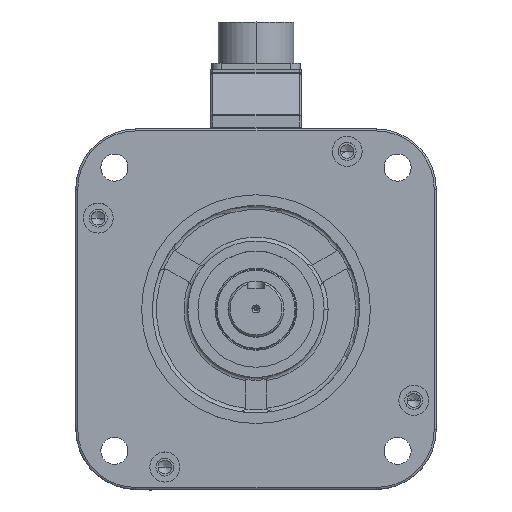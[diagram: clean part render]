
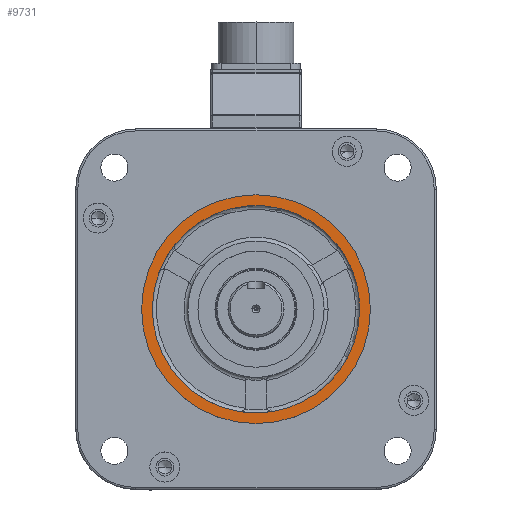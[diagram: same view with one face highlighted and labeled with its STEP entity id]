
A CAD part, top view. The second image highlights one B-rep face of the part: STEP entity #9731.
In plain terms, the highlighted planar face has unit normal (0, 0, 1).
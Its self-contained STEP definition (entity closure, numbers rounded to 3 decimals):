
#322 = DIRECTION ( 'NONE',  ( 1., 0., 0. ) ) ;
#1694 = CARTESIAN_POINT ( 'NONE',  ( 0., 0., 21. ) ) ;
#2957 = AXIS2_PLACEMENT_3D ( 'NONE', #1694, #42381, #14878 ) ;
#3053 = DIRECTION ( 'NONE',  ( 0., 0., 1. ) ) ;
#3659 = DIRECTION ( 'NONE',  ( 1., 0., 0. ) ) ;
#3873 = AXIS2_PLACEMENT_3D ( 'NONE', #58683, #14068, #22168 ) ;
#8122 = CIRCLE ( 'NONE', #9102, 51.75 ) ;
#8298 = CARTESIAN_POINT ( 'NONE',  ( 0., 0., 21. ) ) ;
#8547 = CARTESIAN_POINT ( 'NONE',  ( 8.492, -51.048, 21. ) ) ;
#8676 = CIRCLE ( 'NONE', #2957, 57.15 ) ;
#8756 = ORIENTED_EDGE ( 'NONE', *, *, #57195, .F. ) ;
#9102 = AXIS2_PLACEMENT_3D ( 'NONE', #32371, #50604, #9617 ) ;
#9617 = DIRECTION ( 'NONE',  ( 1., 0., 0. ) ) ;
#9731 = ADVANCED_FACE ( 'NONE', ( #31353, #58894 ), #54679, .T. ) ;
#10361 = CARTESIAN_POINT ( 'NONE',  ( 39.963, 32.879, 21. ) ) ;
#11696 = DIRECTION ( 'NONE',  ( 1., 0., 0. ) ) ;
#11727 = VERTEX_POINT ( 'NONE', #8547 ) ;
#13847 = CIRCLE ( 'NONE', #38645, 51.75 ) ;
#14068 = DIRECTION ( 'NONE',  ( 0., 0., 1. ) ) ;
#14878 = DIRECTION ( 'NONE',  ( 1., 0., 0. ) ) ;
#15259 = CARTESIAN_POINT ( 'NONE',  ( -8.492, -51.048, 21. ) ) ;
#15832 = CIRCLE ( 'NONE', #23469, 57.15 ) ;
#18371 = DIRECTION ( 'NONE',  ( 1., 0., 0. ) ) ;
#21331 = CARTESIAN_POINT ( 'NONE',  ( -48.455, 18.17, 21. ) ) ;
#21459 = CARTESIAN_POINT ( 'NONE',  ( -39.963, 32.879, 21. ) ) ;
#21651 = AXIS2_PLACEMENT_3D ( 'NONE', #21972, #40211, #18371 ) ;
#21972 = CARTESIAN_POINT ( 'NONE',  ( 0., 0., 21. ) ) ;
#22168 = DIRECTION ( 'NONE',  ( 1., 0., 0. ) ) ;
#22476 = ORIENTED_EDGE ( 'NONE', *, *, #26202, .F. ) ;
#23469 = AXIS2_PLACEMENT_3D ( 'NONE', #48830, #3053, #38952 ) ;
#26202 = EDGE_CURVE ( 'NONE', #28057, #36212, #27162, .T. ) ;
#26311 = VERTEX_POINT ( 'NONE', #15259 ) ;
#27162 = CIRCLE ( 'NONE', #35742, 51.75 ) ;
#28057 = VERTEX_POINT ( 'NONE', #21459 ) ;
#28435 = AXIS2_PLACEMENT_3D ( 'NONE', #31188, #58728, #3659 ) ;
#28881 = CARTESIAN_POINT ( 'NONE',  ( 57.15, 0., 21. ) ) ;
#29251 = VERTEX_POINT ( 'NONE', #37417 ) ;
#31112 = VERTEX_POINT ( 'NONE', #45063 ) ;
#31188 = CARTESIAN_POINT ( 'NONE',  ( 0., 0., 21. ) ) ;
#31353 = FACE_BOUND ( 'NONE', #45976, .T. ) ;
#32371 = CARTESIAN_POINT ( 'NONE',  ( 0., 0., 21. ) ) ;
#34089 = ORIENTED_EDGE ( 'NONE', *, *, #49455, .F. ) ;
#35742 = AXIS2_PLACEMENT_3D ( 'NONE', #37099, #36514, #322 ) ;
#35823 = CARTESIAN_POINT ( 'NONE',  ( 0., 0., 21. ) ) ;
#36212 = VERTEX_POINT ( 'NONE', #21331 ) ;
#36514 = DIRECTION ( 'NONE',  ( 0., 0., 1. ) ) ;
#36613 = VERTEX_POINT ( 'NONE', #28881 ) ;
#37099 = CARTESIAN_POINT ( 'NONE',  ( 0., 0., 21. ) ) ;
#37417 = CARTESIAN_POINT ( 'NONE',  ( 51.75, 0., 21. ) ) ;
#37522 = AXIS2_PLACEMENT_3D ( 'NONE', #35823, #40606, #49595 ) ;
#38645 = AXIS2_PLACEMENT_3D ( 'NONE', #8298, #54068, #58879 ) ;
#38796 = ORIENTED_EDGE ( 'NONE', *, *, #43729, .F. ) ;
#38952 = DIRECTION ( 'NONE',  ( 1., 0., 0. ) ) ;
#39793 = CIRCLE ( 'NONE', #21651, 51.75 ) ;
#40211 = DIRECTION ( 'NONE',  ( 0., 0., 1. ) ) ;
#40606 = DIRECTION ( 'NONE',  ( 0., 0., 1. ) ) ;
#41235 = EDGE_CURVE ( 'NONE', #47442, #50300, #46564, .T. ) ;
#42381 = DIRECTION ( 'NONE',  ( 0., 0., 1. ) ) ;
#42451 = ORIENTED_EDGE ( 'NONE', *, *, #57461, .T. ) ;
#43729 = EDGE_CURVE ( 'NONE', #50300, #28057, #44943, .T. ) ;
#44943 = CIRCLE ( 'NONE', #3873, 51.75 ) ;
#45063 = CARTESIAN_POINT ( 'NONE',  ( -57.15, 0., 21. ) ) ;
#45619 = ORIENTED_EDGE ( 'NONE', *, *, #58819, .F. ) ;
#45917 = ORIENTED_EDGE ( 'NONE', *, *, #45924, .T. ) ;
#45924 = EDGE_CURVE ( 'NONE', #31112, #36613, #8676, .T. ) ;
#45976 = EDGE_LOOP ( 'NONE', ( #48270, #8756, #34089, #45619, #57460, #22476, #38796 ) ) ;
#46564 = CIRCLE ( 'NONE', #48498, 51.75 ) ;
#46805 = CARTESIAN_POINT ( 'NONE',  ( 48.455, 18.17, 21. ) ) ;
#47292 = CARTESIAN_POINT ( 'NONE',  ( 0., 0., 21. ) ) ;
#47442 = VERTEX_POINT ( 'NONE', #46805 ) ;
#47593 = DIRECTION ( 'NONE',  ( 0., 0., 1. ) ) ;
#48270 = ORIENTED_EDGE ( 'NONE', *, *, #41235, .F. ) ;
#48498 = AXIS2_PLACEMENT_3D ( 'NONE', #47292, #47593, #11696 ) ;
#48830 = CARTESIAN_POINT ( 'NONE',  ( 0., 0., 21. ) ) ;
#49059 = EDGE_CURVE ( 'NONE', #36212, #26311, #13847, .T. ) ;
#49455 = EDGE_CURVE ( 'NONE', #11727, #29251, #8122, .T. ) ;
#49595 = DIRECTION ( 'NONE',  ( 1., 0., 0. ) ) ;
#50300 = VERTEX_POINT ( 'NONE', #10361 ) ;
#50604 = DIRECTION ( 'NONE',  ( 0., 0., 1. ) ) ;
#54068 = DIRECTION ( 'NONE',  ( 0., 0., 1. ) ) ;
#54223 = CIRCLE ( 'NONE', #28435, 51.75 ) ;
#54679 = PLANE ( 'NONE',  #37522 ) ;
#56571 = EDGE_LOOP ( 'NONE', ( #45917, #42451 ) ) ;
#57195 = EDGE_CURVE ( 'NONE', #29251, #47442, #39793, .T. ) ;
#57460 = ORIENTED_EDGE ( 'NONE', *, *, #49059, .F. ) ;
#57461 = EDGE_CURVE ( 'NONE', #36613, #31112, #15832, .T. ) ;
#58683 = CARTESIAN_POINT ( 'NONE',  ( 0., 0., 21. ) ) ;
#58728 = DIRECTION ( 'NONE',  ( 0., 0., 1. ) ) ;
#58819 = EDGE_CURVE ( 'NONE', #26311, #11727, #54223, .T. ) ;
#58879 = DIRECTION ( 'NONE',  ( 1., 0., 0. ) ) ;
#58894 = FACE_OUTER_BOUND ( 'NONE', #56571, .T. ) ;
